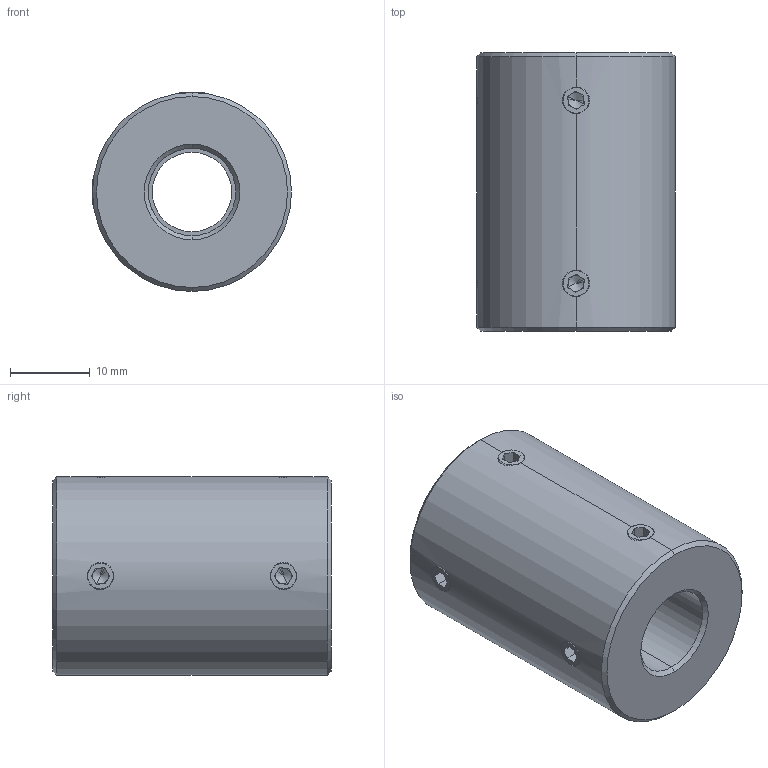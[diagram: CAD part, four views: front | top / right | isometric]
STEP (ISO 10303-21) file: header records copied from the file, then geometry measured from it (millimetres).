
FILE_DESCRIPTION (( 'STEP AP214' ), '1' );
FILE_NAME ('LL-D-D25L35-10-11½¨Ä£.STEP', '2022-07-23T00:43:56', ( '' ), ( '' ), 'SwSTEP 2.0', 'SolidWorks 2022', '' );
FILE_SCHEMA (( 'AUTOMOTIVE_DESIGN' ));
Length unit declared in the file: millimetre
Products named in the file (1): LL-D-D25L35-10-11膘耀
Bounding box: 25 x 35 x 25 mm (x, y, z)
Volume: 13976.4 mm3; surface area: 4870 mm2
Topology: 1 solids, 1 shells, 113 faces, 286 edges, 176 vertices
Faces by surface type: plane 59, cone 32, cylinder 22
Entity records: 3726 total; most frequent: CARTESIAN_POINT 1016, DIRECTION 558, ORIENTED_EDGE 556, EDGE_CURVE 278, AXIS2_PLACEMENT_3D 206, VERTEX_POINT 176, VECTOR 146, LINE 146
